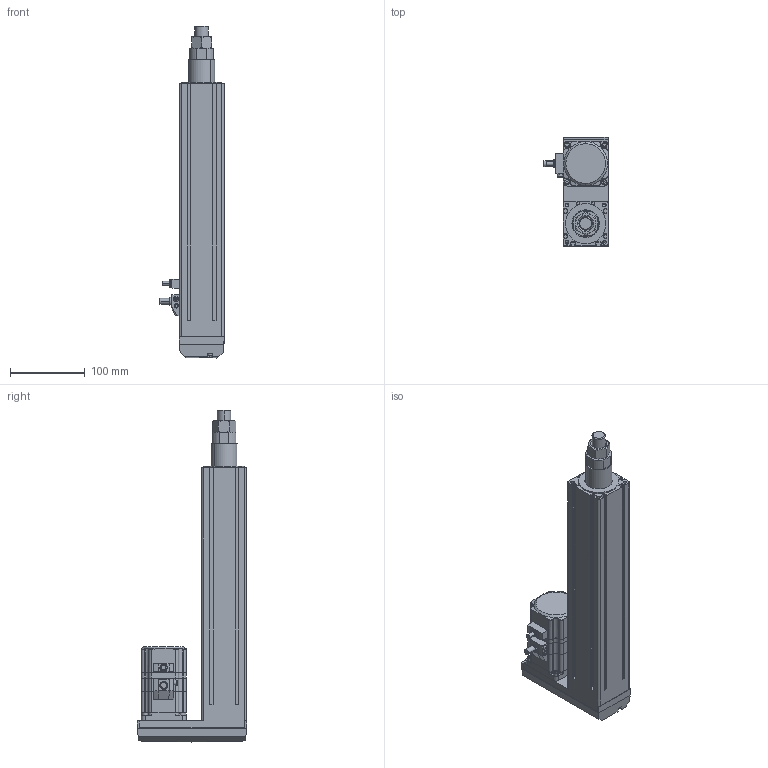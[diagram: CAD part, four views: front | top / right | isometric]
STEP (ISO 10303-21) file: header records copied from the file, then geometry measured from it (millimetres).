
FILE_DESCRIPTION (( 'STEP AP203' ), '1' );
FILE_NAME ('EACM6RD25ARMK.step', '2013-11-05T08:10:31', ( 'om' ), ( 'Hewlett-Packard Company' ), 'SwSTEP 2.0', 'SolidWorks 2011', '' );
FILE_SCHEMA (( 'CONFIG_CONTROL_DESIGN' ));
Length unit declared in the file: millimetre
Products named in the file (5): EACM6RD25ARMK_Rod; EACM6RD25ARMK; EACM6RD25ARMK_Nut; EACM6RD25ARMK_Motor; EACM6RD25ARMK_BASE
Assembly tree (4 placements, depth 2):
  EACM6RD25ARMK
    EACM6RD25ARMK_Rod
    EACM6RD25ARMK_Nut
    EACM6RD25ARMK_Motor
    EACM6RD25ARMK_BASE
Bounding box: 86 x 146.6 x 445.33 mm (x, y, z)
Volume: 1718740.3 mm3; surface area: 265860.2 mm2
Topology: 4 solids, 6 shells, 650 faces, 1698 edges, 1108 vertices
Faces by surface type: plane 374, cylinder 228, cone 30, torus 12, bspline 6
Entity records: 20939 total; most frequent: CARTESIAN_POINT 4182, DIRECTION 3400, ORIENTED_EDGE 3380, EDGE_CURVE 1690, AXIS2_PLACEMENT_3D 1138, LINE 1124, VECTOR 1124, VERTEX_POINT 1108
